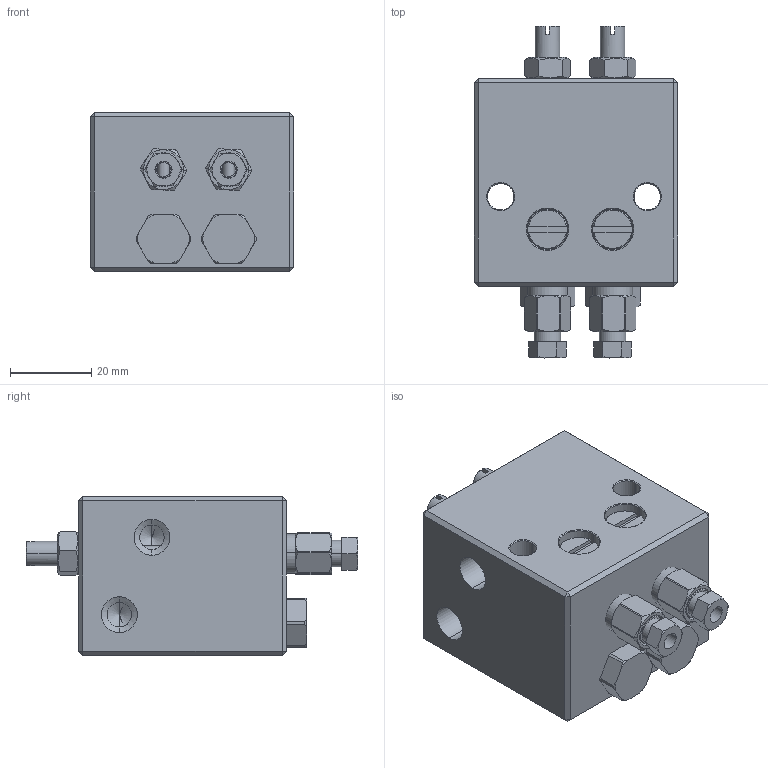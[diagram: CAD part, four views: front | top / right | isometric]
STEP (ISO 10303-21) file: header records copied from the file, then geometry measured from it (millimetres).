
FILE_DESCRIPTION (( 'STEP AP203' ), '1' );
FILE_NAME ('AO-1.STEP', '2020-04-18T06:59:32', ( '个人用户' ), ( '微软中国' ), 'SwSTEP 2.0', 'SolidWorks 2018', '' );
FILE_SCHEMA (( 'CONFIG_CONTROL_DESIGN' ));
Length unit declared in the file: millimetre
Products named in the file (16): AO-1; 躇猾俖; 絳砃杶; 密封圈; 蚐ァ諉芛; hex nuts, style 1-grades ab gb_GB_FASTENER_NUT_SNAB1 M6-N; 油气容积式分配器; 覃誹裝; 苤粟銅釱; 諾ァ覃誹裝; 黑芛; e rings gb_GB_CONNECTING_PIECE_RINGS_HR 3; 縐杶; 縐杶蹟譫; o-rings series a gb_GB-T 3452.1 4x1.8-A; 絳砃裝
Assembly tree (29 placements, depth 2):
  AO-1
    油气容积式分配器
    黑芛  x2
    絳砃裝  x2
    e rings gb_GB_CONNECTING_PIECE_RINGS_HR 3  x2
    絳砃杶  x2
    o-rings series a gb_GB-T 3452.1 4x1.8-A  x2
    躇猾俖  x2
    覃誹裝  x2
    苤粟銅釱  x2
    密封圈  x2
    諾ァ覃誹裝  x2
    hex nuts, style 1-grades ab gb_GB_FASTENER_NUT_SNAB1 M6-N  x2
    蚐ァ諉芛  x2
    縐杶蹟譫  x2
    縐杶  x2
Bounding box: 50 x 81.54 x 39 mm (x, y, z)
Volume: 94845.8 mm3; surface area: 30335.1 mm2
Topology: 29 solids, 29 shells, 828 faces, 1870 edges, 1148 vertices
Faces by surface type: cylinder 316, cone 276, plane 224, torus 8, bspline 4
Entity records: 16813 total; most frequent: CARTESIAN_POINT 3331, DIRECTION 2599, ORIENTED_EDGE 2222, EDGE_CURVE 1111, AXIS2_PLACEMENT_3D 1063, VERTEX_POINT 683, EDGE_LOOP 570, CIRCLE 541
